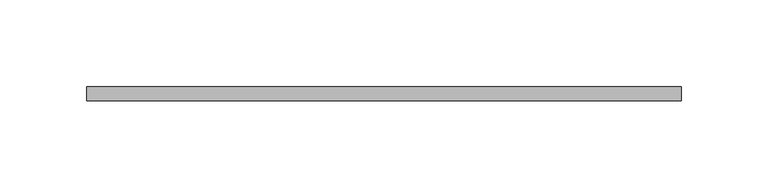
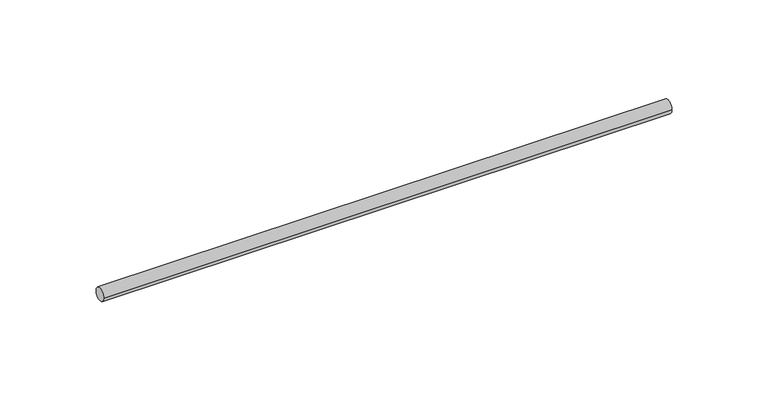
"""IFC4 building model written with IfcOpenShell, lengths in millimetres: valve geometry, Superfix Threaded Rod (used for clamps) : Threaded Rod  Extra  - 1000 mm (used for clamps)."""

from ifc_helpers import new_model, si_unit, point, frame, origin, origin_2d, place, context, project, spatial, circle_curve, trimmed, segment, composite_curve, outline, extrude, source, transform, mapped, element, save


def valve_0564cfff(model_context):
    return source(origin(), model_context, "Body", "SweptSolid", [
        extrude(outline(composite_curve([segment(trimmed(circle_curve(origin_2d(), 4.0), [point((-4.0, 0.0))], [point((4.0, 0.0))], False, "CARTESIAN"), True, "CONTINUOUS"), segment(trimmed(circle_curve(origin_2d(), 4.0), [point((4.0, 0.0))], [point((-4.0, 0.0))], False, "CARTESIAN"), True, "CONTINUOUS")], self_intersect=False)), frame((-10.0, 0.0, 0.0), z_axis=(1.0, 0.0, 0.0), x_axis=(0.0, 1.0, 0.0)), (0.0, 0.0, 1.0), 341.5002332),
    ])


if __name__ == "__main__":
    model = new_model("IFC4")
    model_context = context("Model", 3, world=origin())
    ifc_project = project(units=[si_unit("LENGTHUNIT", "METRE", prefix="MILLI")], contexts=[model_context])
    site = spatial("IfcSite", under=ifc_project)
    building = spatial("IfcBuilding", under=site)
    placement = place(None, origin())
    valve_shape = valve_0564cfff(model_context)
    element("IfcValve", 1, ObjectType="Superfix Threaded Rod (used for clamps) : Threaded Rod  Extra  - 1000 mm (used for clamps)", at=placement, inside=building, context=model_context, shape_type="MappedRepresentation", body=[
        mapped(valve_shape, transform((0.0, 0.0, 0.0), x_axis=(1.0, 0.0, 0.0), y_axis=(0.0, 1.0, 0.0), z_axis=(0.0, 0.0, 1.0))),
    ])
    save(model, "model.ifc")
